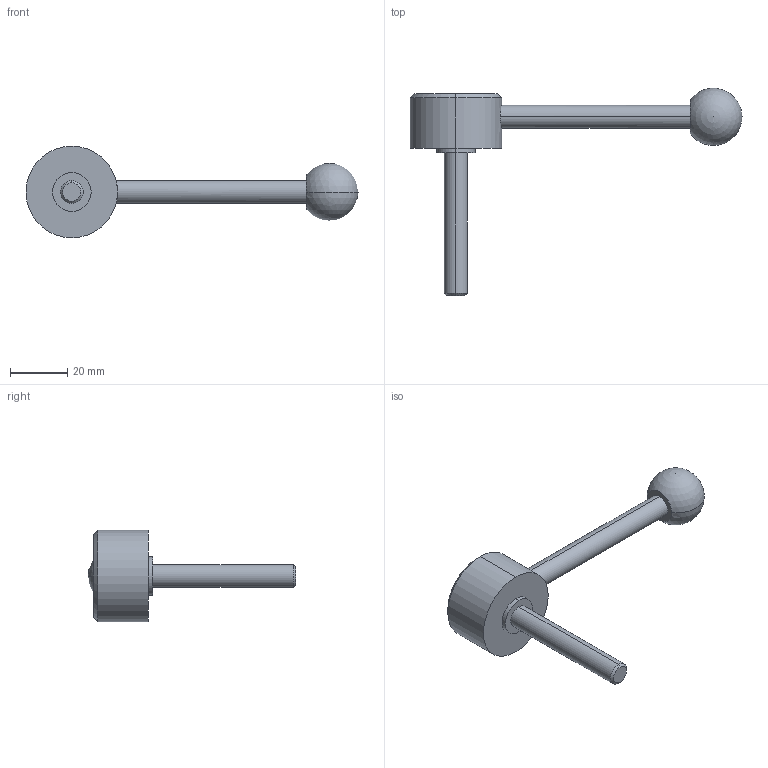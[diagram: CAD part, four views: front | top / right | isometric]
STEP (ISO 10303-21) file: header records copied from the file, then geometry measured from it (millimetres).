
FILE_DESCRIPTION (( 'STEP AP214' ), '1' );
FILE_NAME ('125.5-32-M8-50-D.step', '2020-02-18T11:26:03', ( '' ), ( '' ), 'SwSTEP 2.0', 'SolidWorks 2019', '' );
FILE_SCHEMA (( 'AUTOMOTIVE_DESIGN' ));
Length unit declared in the file: millimetre
Products named in the file (1): 125.5-32-M8-50-D
Bounding box: 116 x 72.47 x 32 mm (x, y, z)
Volume: 25363.5 mm3; surface area: 7554 mm2
Topology: 1 solids, 1 shells, 22 faces, 47 edges, 30 vertices
Faces by surface type: cylinder 10, plane 6, cone 4, sphere 2
Entity records: 730 total; most frequent: CARTESIAN_POINT 158, DIRECTION 112, ORIENTED_EDGE 84, AXIS2_PLACEMENT_3D 49, EDGE_CURVE 42, EDGE_LOOP 27, VERTEX_POINT 27, CIRCLE 26
